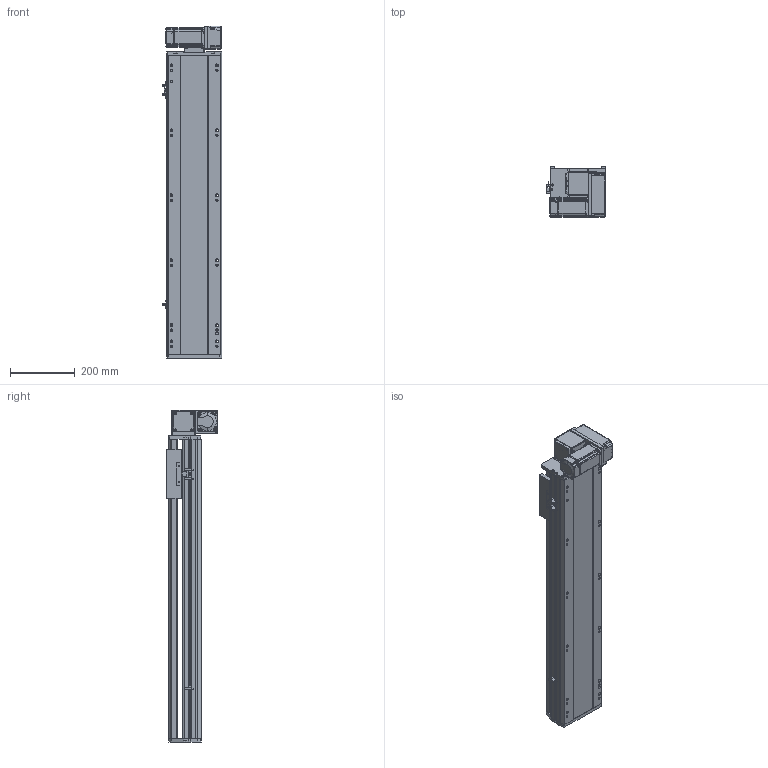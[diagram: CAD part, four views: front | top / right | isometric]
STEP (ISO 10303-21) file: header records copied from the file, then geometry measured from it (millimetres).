
FILE_DESCRIPTION (( 'STEP AP214' ), '1' );
FILE_NAME ('RTB17S-XX-650-RM-M40-C4.STEP', '2025-12-11T08:12:40', ( '' ), ( '' ), 'SwSTEP 2.0', 'SolidWorks 2018', '' );
FILE_SCHEMA (( 'AUTOMOTIVE_DESIGN' ));
Length unit declared in the file: millimetre
Products named in the file (14): RTB14-L-008-M20--萇儂啣^RTB17S-RM-々湍釱蚾饜-400W_RTB17S-XX-XX-RM-M40-C4; 400W侜督萇儂^RTB17S-XX-XX-RM-M40-C4; RTB14-L-005P--轴承塑胶压盖^RTB17S-RM-皮带座装配-400W_RTB17S-XX-XX-RM-M40-C4; RTB17S-L-001耜醱啣^RTB17S-XX-XX-RM-M40-C4; RTB17S-L-007奻裔^RTB17S-XX-XX-RM-M40-C4; RTB17S-RM-々湍釱蚾饜-400W^RTB17S-XX-XX-RM-M40-C4; RTB17S-XX-650-RM-M40-C4; RTB17S-L-004佪裝蹟譫蟀諉釱^RTB17S-XX-XX-RM-M40-C4; RTH13-BL-012覜茼え俋离^RTB17S-XX-XX-RM-M40-C4; RTB14-L-018P^RTB17S-RM-々湍釱蚾饜-400W_RTB17S-XX-XX-RM-M40-C4; RTB14-L-017P^RTB17S-RM-々湍釱蚾饜-400W_RTB17S-XX-XX-RM-M40-C4; RTB17S-L-014-T20--々湍釱^RTB17S-RM-々湍釱蚾饜-400W_RTB17S-XX-XX-RM-M40-C4; OMRON EE-SX672 传感器^RTB17S-XX-XX-RM-M40-C4; RTB17-R-011菁釱^RTB17S-XX-XX-RM-M40-C4
Assembly tree (16 placements, depth 3):
  RTB17S-XX-650-RM-M40-C4
    RTB17-R-011菁釱^RTB17S-XX-XX-RM-M40-C4
    RTB17S-L-007奻裔^RTB17S-XX-XX-RM-M40-C4
    OMRON EE-SX672 传感器^RTB17S-XX-XX-RM-M40-C4  x3
    RTB17S-L-001耜醱啣^RTB17S-XX-XX-RM-M40-C4
    400W侜督萇儂^RTB17S-XX-XX-RM-M40-C4
    RTB17S-L-004佪裝蹟譫蟀諉釱^RTB17S-XX-XX-RM-M40-C4
    RTH13-BL-012覜茼え俋离^RTB17S-XX-XX-RM-M40-C4
    RTB17S-RM-々湍釱蚾饜-400W^RTB17S-XX-XX-RM-M40-C4
      RTB17S-L-014-T20--々湍釱^RTB17S-RM-々湍釱蚾饜-400W_RTB17S-XX-XX-RM-M40-C4
      RTB14-L-005P--轴承塑胶压盖^RTB17S-RM-皮带座装配-400W_RTB17S-XX-XX-RM-M40-C4
      RTB14-L-008-M20--萇儂啣^RTB17S-RM-々湍釱蚾饜-400W_RTB17S-XX-XX-RM-M40-C4
      RTB14-L-017P^RTB17S-RM-々湍釱蚾饜-400W_RTB17S-XX-XX-RM-M40-C4  x2
      RTB14-L-018P^RTB17S-RM-々湍釱蚾饜-400W_RTB17S-XX-XX-RM-M40-C4
Bounding box: 183.5 x 156.5 x 1022.5 mm (x, y, z)
Volume: 9514907.8 mm3; surface area: 1188611.5 mm2
Topology: 15 solids, 15 shells, 2189 faces, 6033 edges, 3933 vertices
Faces by surface type: plane 1066, cylinder 675, bspline 301, cone 139, torus 8
Entity records: 61865 total; most frequent: CARTESIAN_POINT 17238, ORIENTED_EDGE 8910, DIRECTION 8306, EDGE_CURVE 4455, VERTEX_POINT 2921, AXIS2_PLACEMENT_3D 2851, VECTOR 2604, LINE 2604
